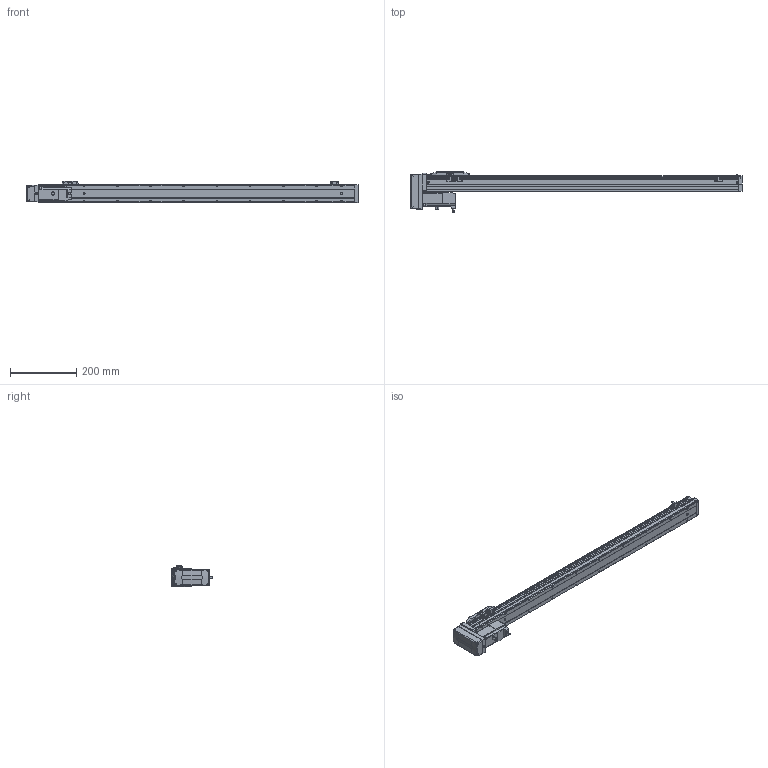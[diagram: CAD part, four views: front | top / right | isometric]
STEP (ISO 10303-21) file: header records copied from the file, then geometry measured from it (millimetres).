
FILE_DESCRIPTION (( 'STEP AP203' ), '1' );
FILE_NAME ('CTH5-L10-S800-BM-C10(¼ò).STEP', '2023-02-04T02:24:08', ( '' ), ( '' ), 'SwSTEP 2.0', 'SolidWorks 2018', '' );
FILE_SCHEMA (( 'CONFIG_CONTROL_DESIGN' ));
Length unit declared in the file: millimetre
Products named in the file (22): CTH5綴耜啣; CTH100W假蚾啣; CTH5耜蚾欶; CTH5-L10-S800-BM-C10(潠); CTH5ヶ耜啣(潠); 葩璃 蚾饜极13^CTH8-L10-S50-BM-C40(潠)1; CTH5耜晚蹟隊-1; 内六角圆柱头螺钉M3-2; hex nuts, style 1-grades ab gb_GB_FASTENER_NUT_SNAB1 M3-N; 嫖萇羲壽郪磁1; CTH5覜茼え; T10-p1; CTH5-BL-T10_body5; 100W萇儂; CTH嫖萇羲壽假蚾啣; M3｡｣; 葩璃 蚾饜极16^CTH5-L10-S800-BM-C10(潠); CTH5耜蚾蟀諉啣(潠); PM-Y45; CTH5耜晚蹟隊; CTH5賑怢; CTH5菁釱-L940
Assembly tree (37 placements, depth 4):
  CTH5-L10-S800-BM-C10(潠)
    CTH5綴耜啣
    CTH5賑怢
    CTH5ヶ耜啣(潠)
    CTH5菁釱-L940
    CTH5耜晚蹟隊  x2
    嫖萇羲壽郪磁1  x2
      CTH嫖萇羲壽假蚾啣
      PM-Y45
      M3｡｣
      内六角圆柱头螺钉M3-2
      hex nuts, style 1-grades ab gb_GB_FASTENER_NUT_SNAB1 M3-N
    CTH5覜茼え
    葩璃 蚾饜极13^CTH8-L10-S50-BM-C40(潠)1
      CTH嫖萇羲壽假蚾啣
      PM-Y45
      内六角圆柱头螺钉M3-2  x2
      M3｡｣  x2
      hex nuts, style 1-grades ab gb_GB_FASTENER_NUT_SNAB1 M3-N  x2
    CTH5耜晚蹟隊-1  x4
    葩璃 蚾饜极16^CTH5-L10-S800-BM-C10(潠)
      CTH5耜蚾蟀諉啣(潠)
      CTH5耜蚾欶
        CTH5-BL-T10_body5
      100W萇儂
        T10-p1
      CTH100W假蚾啣
Bounding box: 1000 x 122.21 x 63.3 mm (x, y, z)
Volume: 2385304.7 mm3; surface area: 326293.4 mm2
Topology: 39 solids, 39 shells, 1643 faces, 4135 edges, 2664 vertices
Faces by surface type: plane 890, cylinder 480, cone 215, torus 40, bspline 18
Entity records: 38677 total; most frequent: CARTESIAN_POINT 7168, DIRECTION 6139, ORIENTED_EDGE 5894, EDGE_CURVE 2947, AXIS2_PLACEMENT_3D 2126, VERTEX_POINT 1892, LINE 1887, VECTOR 1887
